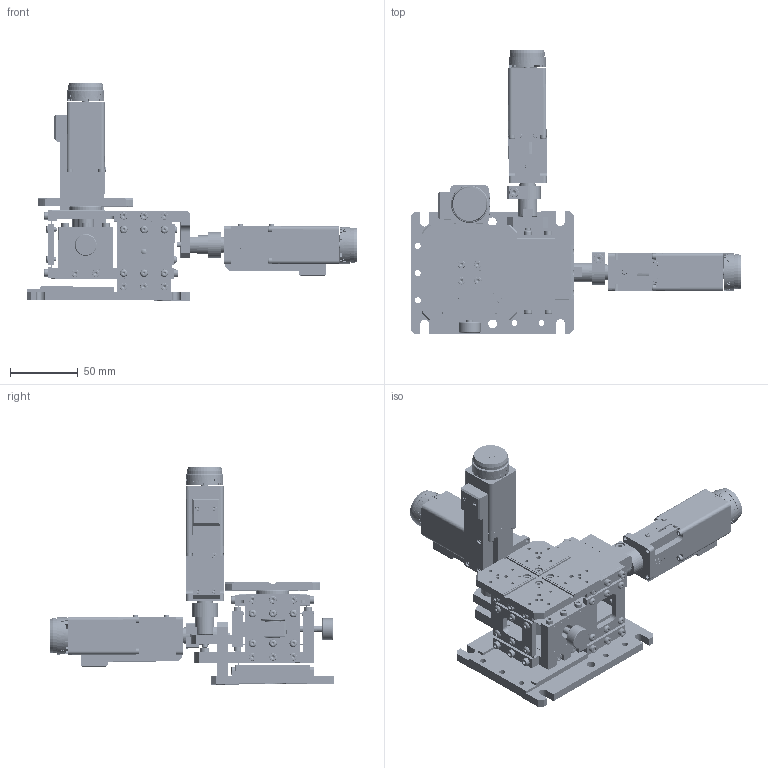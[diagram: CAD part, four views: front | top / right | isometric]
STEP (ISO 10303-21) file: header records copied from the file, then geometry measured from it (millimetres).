
FILE_DESCRIPTION(/* description */ (''),/* implementation_level */ '2;1');
FILE_NAME(/* name */ 'C:\Users\dsgn39\Documents\Internetui\8MTF2M\8MTF2M.stp',/* time_stamp */ '2017-05-16T09:49:22+03:00',/* author */ ('dsgn39'),/* organization */ (''),/* preprocessor_version */ 'ST-DEVELOPER v15.2',/* originating_system */ 'Autodesk Inventor 2014',/* authorisation */ '');
FILE_SCHEMA (('AUTOMOTIVE_DESIGN { 1 0 10303 214 3 1 1 }'));
Products named in the file (2): Part409; Assembly8
Bounding box: 243.22 x 209.31 x 159.82 mm (x, y, z)
Volume: 504969.5 mm3; surface area: 173129.9 mm2
Topology: 1 solids, 88 shells, 5941 faces, 15704 edges, 10384 vertices
Faces by surface type: plane 3481, cylinder 1079, bspline 1065, cone 194, torus 119, sphere 3
Full cylindrical faces by diameter (mm): 1.567 x10, 1.783 x9, 2 x24, 2.3 x15, 2.4 x9, 2.459 x22, 2.5 x12, 2.8 x24, 3 x61, 3.242 x4, 3.3 x94, 3.8 x15, 4 x29, 4.3 x10, 4.4 x3, 4.5 x17, 5 x4, 5.5 x42, 5.7 x24, 6 x10, 6.5 x3, 7 x11, 7.2 x3, 8 x10, 11 x1, 11.4 x3, 12 x6, 14 x3, 18 x1, 20 x2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
Entity records: 350072 total; most frequent: CARTESIAN_POINT 216971, ORIENTED_EDGE 29168, DIRECTION 23019, EDGE_CURVE 14584, VERTEX_POINT 10040, AXIS2_PLACEMENT_3D 7689, LINE 7641, VECTOR 7641
